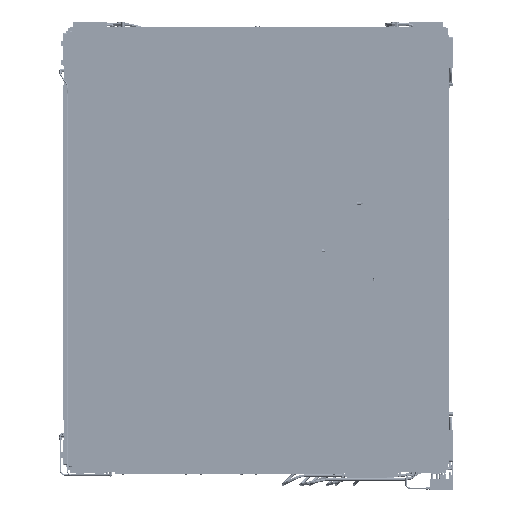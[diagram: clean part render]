
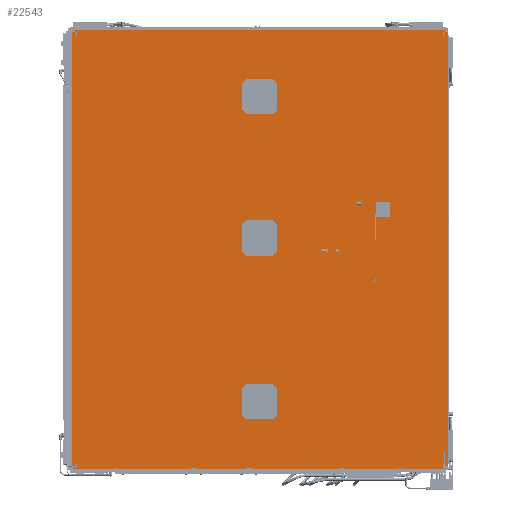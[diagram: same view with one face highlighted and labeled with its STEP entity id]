
A CAD part, front view. The second image highlights one B-rep face of the part: STEP entity #22543.
In plain terms, the highlighted planar face has unit normal (0, -1, 0) as drawn and (-1, 0, 0) by its records, which use the part's own axes.
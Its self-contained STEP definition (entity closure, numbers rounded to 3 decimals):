
#22543=ADVANCED_FACE('',(#36487),#28914,.T.);
#28914=PLANE('',#212364);
#36487=FACE_OUTER_BOUND('',#47289,.T.);
#47289=EDGE_LOOP('',(#75527,#75528,#75529,#75530));
#75527=ORIENTED_EDGE('',*,*,#118354,.T.);
#75528=ORIENTED_EDGE('',*,*,#118358,.T.);
#75529=ORIENTED_EDGE('',*,*,#118359,.F.);
#75530=ORIENTED_EDGE('',*,*,#118360,.F.);
#101282=VERTEX_POINT('',#326014);
#101283=VERTEX_POINT('',#326017);
#101285=VERTEX_POINT('',#326026);
#101286=VERTEX_POINT('',#326032);
#118354=EDGE_CURVE('',#101283,#101282,#131386,.T.);
#118358=EDGE_CURVE('',#101282,#101285,#131390,.T.);
#118359=EDGE_CURVE('',#101286,#101285,#131391,.T.);
#118360=EDGE_CURVE('',#101283,#101286,#131392,.T.);
#131386=B_SPLINE_CURVE_WITH_KNOTS('',1,(#326015,#326016),.UNSPECIFIED.,
 .F.,.F.,(2,2),(0.,1.),.UNSPECIFIED.);
#131390=B_SPLINE_CURVE_WITH_KNOTS('',1,(#326027,#326028),.UNSPECIFIED.,
 .F.,.F.,(2,2),(0.,1.),.UNSPECIFIED.);
#131391=B_SPLINE_CURVE_WITH_KNOTS('',1,(#326030,#326031),.UNSPECIFIED.,
 .F.,.F.,(2,2),(0.,1.),.UNSPECIFIED.);
#131392=B_SPLINE_CURVE_WITH_KNOTS('',1,(#326033,#326034),.UNSPECIFIED.,
 .F.,.F.,(2,2),(0.,1.),.UNSPECIFIED.);
#212364=AXIS2_PLACEMENT_3D('',#326035,#245529,#245530);
#245529=DIRECTION('',(-1.,0.,0.));
#245530=DIRECTION('',(0.,0.,1.));
#326014=CARTESIAN_POINT('',(4167.5,1440.,-6590.));
#326015=CARTESIAN_POINT('',(4167.5,1440.,-4094.));
#326016=CARTESIAN_POINT('',(4167.5,1440.,-6590.));
#326017=CARTESIAN_POINT('',(4167.5,1440.,-4094.));
#326026=CARTESIAN_POINT('',(4167.5,-689.,-6590.));
#326027=CARTESIAN_POINT('',(4167.5,1440.,-6590.));
#326028=CARTESIAN_POINT('',(4167.5,-689.,-6590.));
#326030=CARTESIAN_POINT('',(4167.5,-689.,-4094.));
#326031=CARTESIAN_POINT('',(4167.5,-689.,-6590.));
#326032=CARTESIAN_POINT('',(4167.5,-689.,-4094.));
#326033=CARTESIAN_POINT('',(4167.5,1440.,-4094.));
#326034=CARTESIAN_POINT('',(4167.5,-689.,-4094.));
#326035=CARTESIAN_POINT('',(4167.5,375.5,-5342.));
